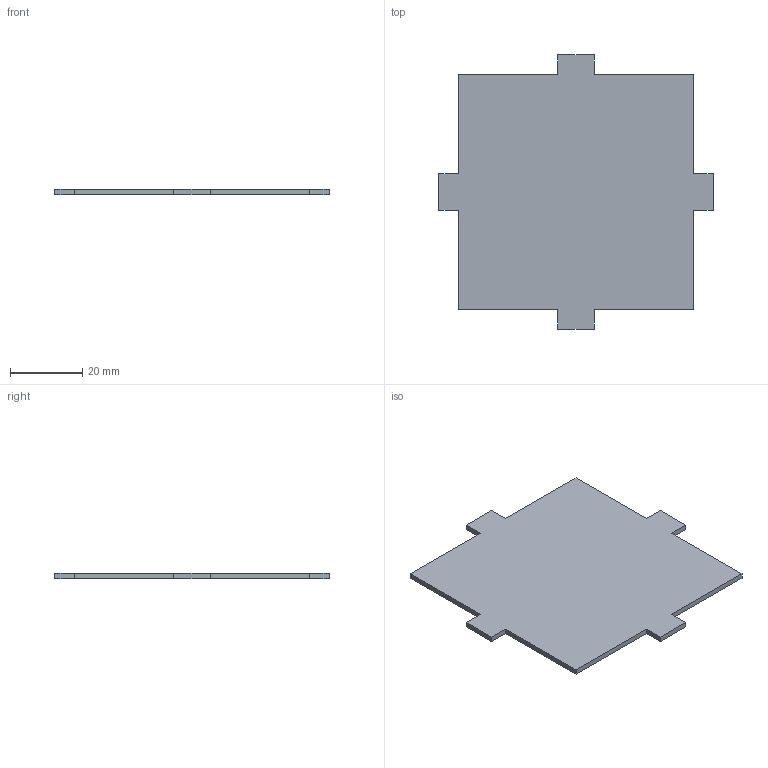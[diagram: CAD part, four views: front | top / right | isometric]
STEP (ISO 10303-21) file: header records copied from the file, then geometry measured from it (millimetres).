
FILE_DESCRIPTION(('Open CASCADE Model'),'2;1');
FILE_NAME('Open CASCADE Shape Model','2026-09-20T05:09:18',('Author'),( 'Open CASCADE'),'Open CASCADE STEP processor 8.0','Open CASCADE 8.0' ,'Unknown');
FILE_SCHEMA(('AP242_MANAGED_MODEL_BASED_3D_ENGINEERING_MIM_LF {1 0 10303 442 1 1 4 }' ));
Length unit declared in the file: millimetre
Products named in the file (1): Open CASCADE STEP translator 8.0 3
Bounding box: 76 x 76 x 1.5 mm (x, y, z)
Volume: 6667.5 mm3; surface area: 9346 mm2
Topology: 1 solids, 1 shells, 22 faces, 60 edges, 40 vertices
Faces by surface type: plane 22
Entity records: 1474 total; most frequent: CARTESIAN_POINT 243, DIRECTION 226, LINE 180, VECTOR 180, ORIENTED_EDGE 120, PCURVE 120, DEFINITIONAL_REPRESENTATION 120, EDGE_CURVE 60
